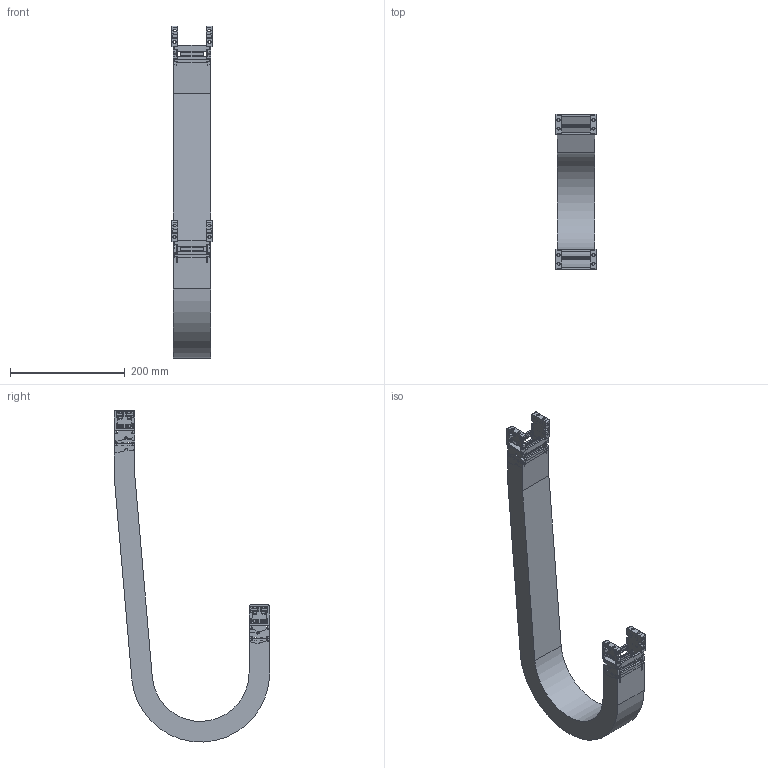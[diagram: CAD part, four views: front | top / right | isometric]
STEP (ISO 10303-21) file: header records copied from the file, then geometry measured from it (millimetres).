
FILE_DESCRIPTION((''),'2;1');
FILE_NAME('KST-25050-100_ASM','2017-12-05T',('KUNI004K'),(''),'PRO/ENGINEER BY PARAMETRIC TECHNOLOGY CORPORATION, 2015200','PRO/ENGINEER BY PARAMETRIC TECHNOLOGY CORPORATION, 2015200','');
FILE_SCHEMA(('AUTOMOTIVE_DESIGN { 1 0 10303 214 1 1 1 1 }'));
Length unit declared in the file: millimetre
Products named in the file (13): 25FBR; 25FBL; 25050C; KST25FBR_W050_ASM; 25100R; 25100L; 25050H; KST25050-100_1_ASM; KST25050_R100_BODY; 25MBR; 25MBL; KST25MBR_W050_ASM; KST-25050-100_ASM
Assembly tree (19 placements, depth 3):
  KST-25050-100_ASM
    KST25FBR_W050_ASM
      25FBR
      25FBL
      25050C  x2
    KST25050-100_1_ASM  x2
      25100R
      25100L
      25050C
      25050H
    KST25050_R100_BODY
    KST25MBR_W050_ASM
      25MBR
      25MBL
      25050C  x2
Bounding box: 70 x 271 x 579.19 mm (x, y, z)
Volume: 917452.6 mm3; surface area: 420353.1 mm2
Topology: 21 solids, 21 shells, 2564 faces, 7130 edges, 4624 vertices
Faces by surface type: plane 1330, cylinder 930, bspline 208, sphere 64, torus 32
Entity records: 69572 total; most frequent: CARTESIAN_POINT 15222, ORIENTED_EDGE 7396, DIRECTION 6500, PRESENTATION_STYLE_ASSIGNMENT 4998, STYLED_ITEM 4998, CURVE_STYLE 3698, EDGE_CURVE 3698, VECTOR 2454
